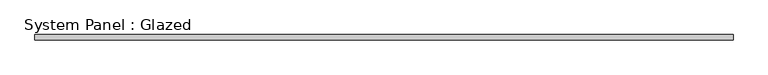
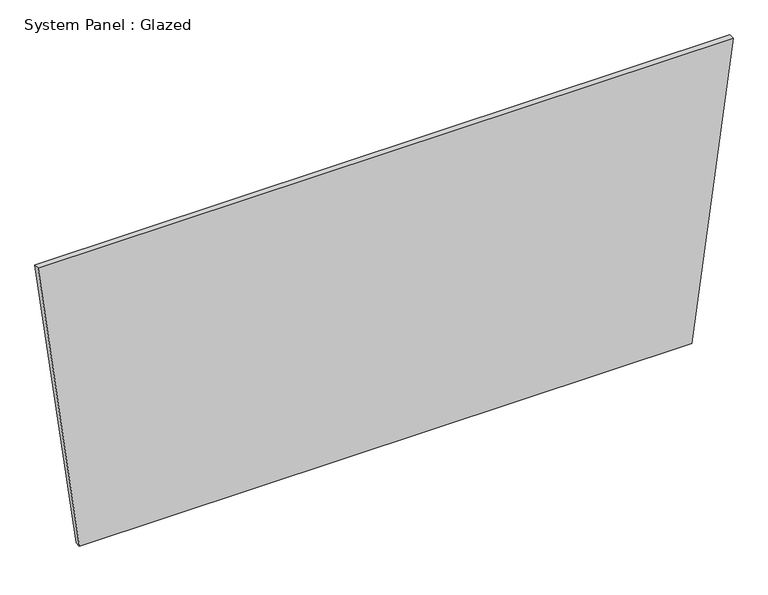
"""IFC4 building model written with IfcOpenShell, lengths in millimetres: plate geometry, System Panel : Glazed."""

from ifc_helpers import new_model, si_unit, frame, origin, place, context, project, spatial, polyline, outline, extrude, source, transform, mapped, element, save


def system_panel_glazed_91a8511b(model_context):
    return source(origin(), model_context, "Body", "SweptSolid", [
        extrude(outline(polyline([(0.0, -1435.2179705), (0.0, 1435.2179705), (1447.0644321, 1628.6484065), (1447.0644321, -1628.6484065), (0.0, -1435.2179705)])), frame((0.0, -44.45, 0.0), z_axis=(0.0, 1.0, 0.0), x_axis=(0.0, 0.0, 1.0)), (0.0, 0.0, 1.0), 25.4),
    ])


if __name__ == "__main__":
    model = new_model("IFC4")
    model_context = context("Model", 3, world=origin())
    ifc_project = project(units=[si_unit("LENGTHUNIT", "METRE", prefix="MILLI")], contexts=[model_context])
    site = spatial("IfcSite", under=ifc_project)
    building = spatial("IfcBuilding", under=site)
    placement = place(None, origin())
    system_panel_glazed_shape = system_panel_glazed_91a8511b(model_context)
    element("IfcPlate", 1, ObjectType="System Panel : Glazed", at=placement, inside=building, context=model_context, shape_type="MappedRepresentation", body=[
        mapped(system_panel_glazed_shape, transform((0.0, 0.0, 0.0), x_axis=(1.0, 0.0, 0.0), y_axis=(0.0, 1.0, 0.0), z_axis=(0.0, 0.0, 1.0))),
    ])
    save(model, "model.ifc")
